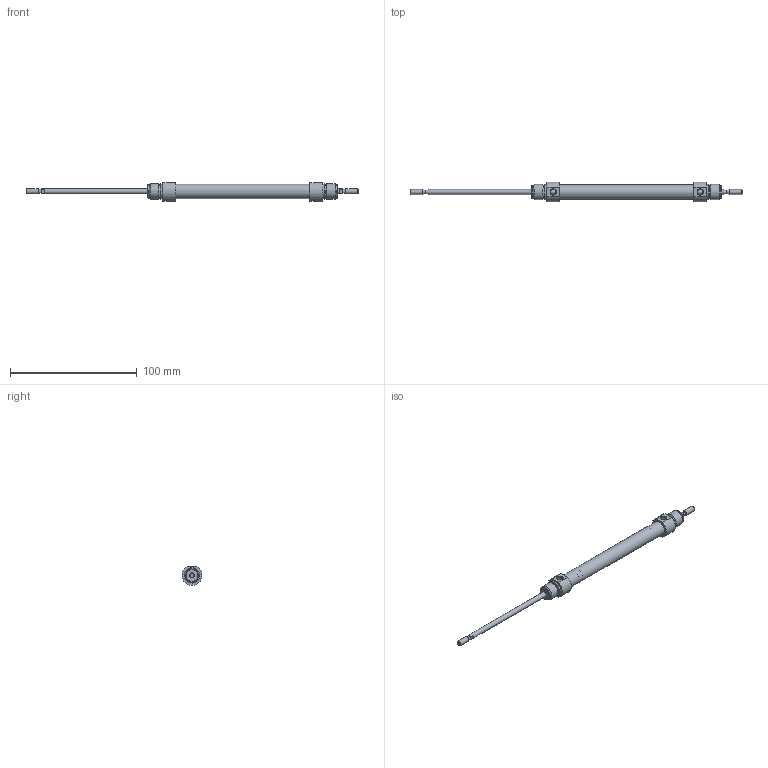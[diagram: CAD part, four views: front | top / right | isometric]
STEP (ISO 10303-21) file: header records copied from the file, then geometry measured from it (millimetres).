
FILE_DESCRIPTION( ( 'STEP AP203' ), '1' );
FILE_NAME( '//expscmdclustefs.cadenas.external/client_exchange/iodir/jobs/output/wkb68273162_no0/STEP/M101-010-0080--__0__2_03.stp', ' ', ( ' ' ), ( ' ' ), 'PSStep 15.0.47', 'PARTsolutions', ' ' );
FILE_SCHEMA( ( 'CONFIG_CONTROL_DESIGN' ) );
Length unit declared in the file: millimetre
Products named in the file (3): M101-010-0080-- [0]; HI_M101-010-0080---[0]-z; HI_M101-010-0080---[0]-k
Assembly tree (2 placements, depth 2):
  M101-010-0080-- [0]
    HI_M101-010-0080---[0]-z
    HI_M101-010-0080---[0]-k
Bounding box: 262 x 15.77 x 14.87 mm (x, y, z)
Volume: 12959.2 mm3; surface area: 13400.1 mm2
Topology: 2 solids, 2 shells, 71 faces, 145 edges, 88 vertices
Faces by surface type: plane 32, cylinder 23, cone 14, torus 2
Full cylindrical faces by diameter (mm): 3.141 x2, 4 x6, 4.134 x2, 10 x2, 10.466 x4, 11.3 x1, 12 x4
Entity records: 1838 total; most frequent: CARTESIAN_POINT 358, DIRECTION 312, ORIENTED_EDGE 212, AXIS2_PLACEMENT_3D 140, EDGE_LOOP 120, EDGE_CURVE 106, FACE_OUTER_BOUND 94, VERTEX_POINT 82
